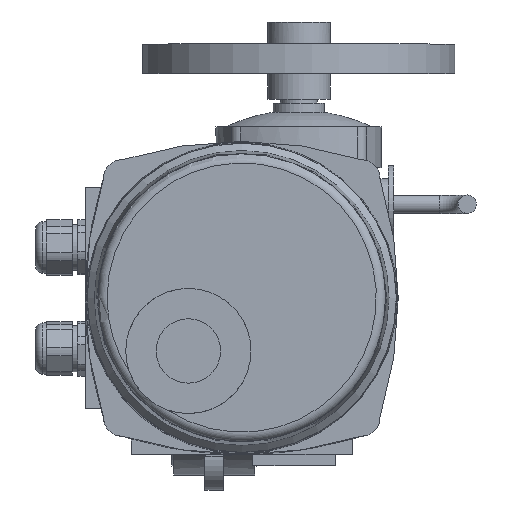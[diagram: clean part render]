
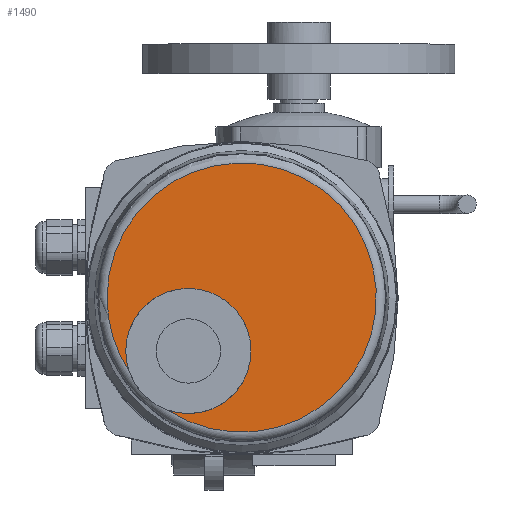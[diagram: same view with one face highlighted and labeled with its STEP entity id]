
A CAD part, top view. The second image highlights one B-rep face of the part: STEP entity #1490.
In plain terms, the highlighted planar face has unit normal (0, 0, 1).
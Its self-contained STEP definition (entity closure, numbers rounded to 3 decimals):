
#1490=ADVANCED_FACE('',(#8696),#8698,.T.);
#8696=FACE_BOUND('',#8697,.T.);
#8697=EDGE_LOOP('',(#14210,#14211,#14212,#14213));
#8698=PLANE('',#8699);
#8699=AXIS2_PLACEMENT_3D('',#8700,#8701,#8702);
#8700=CARTESIAN_POINT('',(15.,35.,407.));
#8701=DIRECTION('',(0.,0.,1.));
#8702=DIRECTION('',(-1.,0.,0.));
#14210=ORIENTED_EDGE('',*,*,#18319,.F.);
#14211=ORIENTED_EDGE('',*,*,#18320,.F.);
#14212=ORIENTED_EDGE('',*,*,#18306,.F.);
#14213=ORIENTED_EDGE('',*,*,#18305,.F.);
#18305=EDGE_CURVE('',#20818,#20821,#20822,.T.);
#18306=EDGE_CURVE('',#20821,#20819,#20823,.T.);
#18319=EDGE_CURVE('',#20844,#20818,#20845,.T.);
#18320=EDGE_CURVE('',#20819,#20844,#20846,.T.);
#20818=VERTEX_POINT('',#25779);
#20819=VERTEX_POINT('',#25780);
#20821=VERTEX_POINT('',#25809);
#20822=CIRCLE('',#25810,73.139);
#20823=CIRCLE('',#25814,73.139);
#20844=VERTEX_POINT('',#25867);
#20845=CIRCLE('',#25868,34.);
#20846=CIRCLE('',#25872,34.);
#25779=CARTESIAN_POINT('',(-46.08,-5.231,407.));
#25780=CARTESIAN_POINT('',(-25.231,-26.08,407.));
#25809=CARTESIAN_POINT('',(-58.139,35.,407.));
#25810=AXIS2_PLACEMENT_3D('',#25811,#25812,#25813);
#25811=CARTESIAN_POINT('',(15.,35.,407.));
#25812=DIRECTION('',(0.,0.,-1.));
#25813=DIRECTION('',(-0.835,-0.55,0.));
#25814=AXIS2_PLACEMENT_3D('',#25815,#25816,#25817);
#25815=CARTESIAN_POINT('',(15.,35.,407.));
#25816=DIRECTION('',(0.,0.,-1.));
#25817=DIRECTION('',(-1.,0.,0.));
#25867=CARTESIAN_POINT('',(-13.991,40.009,407.));
#25868=AXIS2_PLACEMENT_3D('',#25869,#25870,#25871);
#25869=CARTESIAN_POINT('',(-13.991,6.009,407.));
#25870=DIRECTION('',(0.,0.,1.));
#25871=DIRECTION('',(0.,1.,0.));
#25872=AXIS2_PLACEMENT_3D('',#25873,#25874,#25875);
#25873=CARTESIAN_POINT('',(-13.991,6.009,407.));
#25874=DIRECTION('',(0.,0.,1.));
#25875=DIRECTION('',(-0.331,-0.944,0.));
